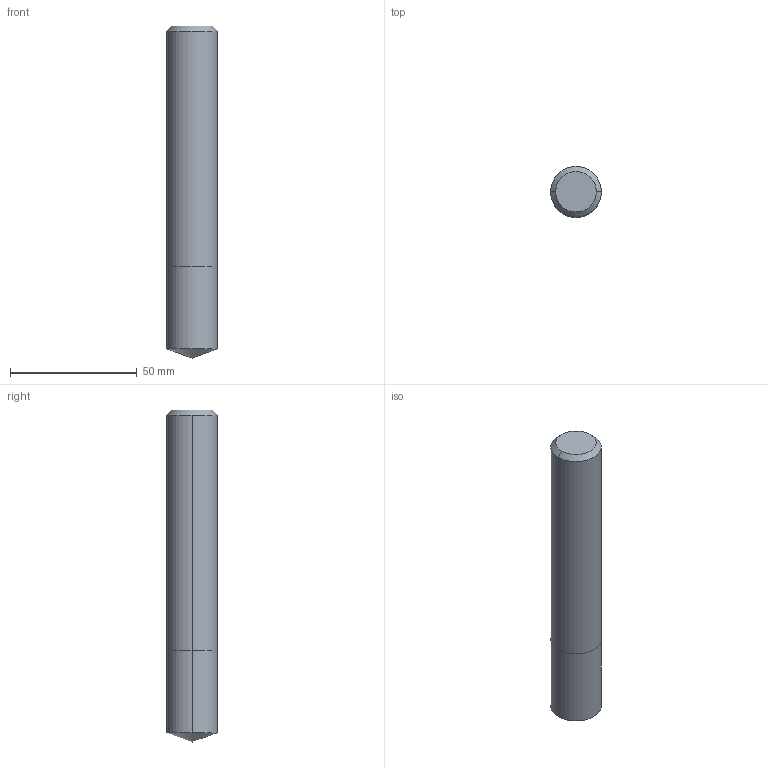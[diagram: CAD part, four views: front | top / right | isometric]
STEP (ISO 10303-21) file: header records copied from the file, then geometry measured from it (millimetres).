
FILE_DESCRIPTION (( 'STEP AP214' ), '1' );
FILE_NAME ('303.200.00_3D-model.step', '2022-02-19T16:16:52', ( '' ), ( '' ), 'SwSTEP 2.0', 'SolidWorks 2020', '' );
FILE_SCHEMA (( 'AUTOMOTIVE_DESIGN' ));
Length unit declared in the file: millimetre
Products named in the file (3): NOCUT-3D^Baugr93; 303.200.00_3D-model; CUT-3D^Baugr93
Assembly tree (2 placements, depth 2):
  303.200.00_3D-model
    CUT-3D^Baugr93
    NOCUT-3D^Baugr93
Bounding box: 20 x 20 x 131 mm (x, y, z)
Volume: 40275.4 mm3; surface area: 9200.3 mm2
Topology: 2 solids, 2 shells, 11 faces, 20 edges, 11 vertices
Faces by surface type: cone 4, cylinder 4, plane 3
Entity records: 380 total; most frequent: DIRECTION 66, CARTESIAN_POINT 48, ORIENTED_EDGE 36, AXIS2_PLACEMENT_3D 29, EDGE_CURVE 18, EDGE_LOOP 11, ADVANCED_FACE 11, FACE_OUTER_BOUND 11
